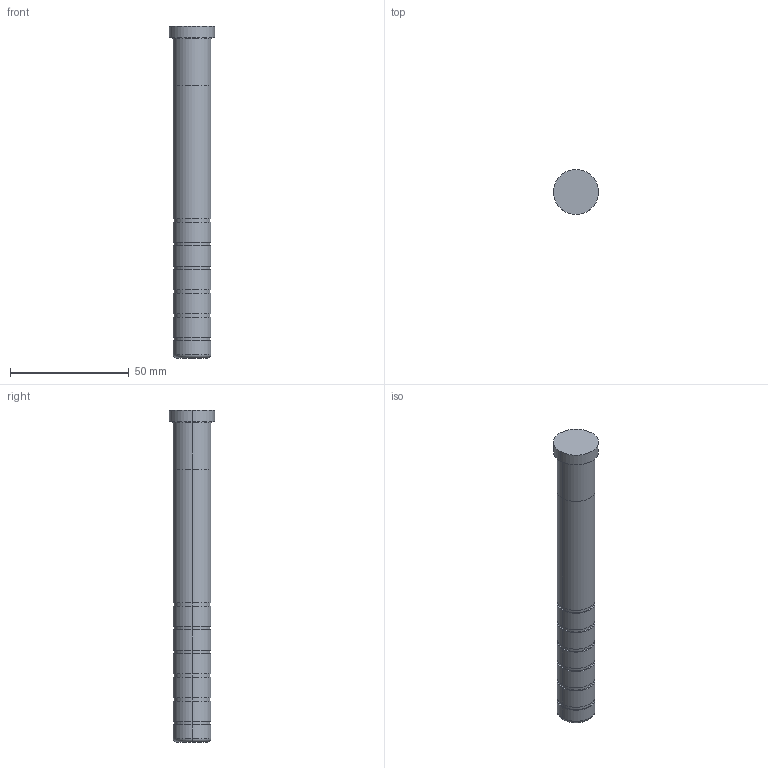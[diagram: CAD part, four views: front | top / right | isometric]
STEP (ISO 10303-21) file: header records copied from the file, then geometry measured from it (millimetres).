
FILE_DESCRIPTION(/* description */ (''),/* implementation_level */ '2;1');
FILE_NAME(/* name */ '3d_sgoh16-140_05191_r00.stp',/* time_stamp */ '2011-01-10T14:11:09+09:00',/* author */ ('MISUMI'),/* organization */ (''),/* preprocessor_version */ 'ST-DEVELOPER v11',/* originating_system */ 'UGS - NX 5.0',/* authorisation */ '');
FILE_SCHEMA (('CONFIG_CONTROL_DESIGN'));
Length unit declared in the file: millimetre
Products named in the file (1): 3d_sgoh16-140_05191_r00
Bounding box: 19 x 19 x 140 mm (x, y, z)
Volume: 28319.3 mm3; surface area: 7876.5 mm2
Topology: 1 solids, 1 shells, 49 faces, 96 edges, 62 vertices
Faces by surface type: cylinder 30, plane 15, torus 4
Entity records: 1374 total; most frequent: DIRECTION 262, CARTESIAN_POINT 208, ORIENTED_EDGE 192, AXIS2_PLACEMENT_3D 116, EDGE_CURVE 96, CIRCLE 66, EDGE_LOOP 62, VERTEX_POINT 62
